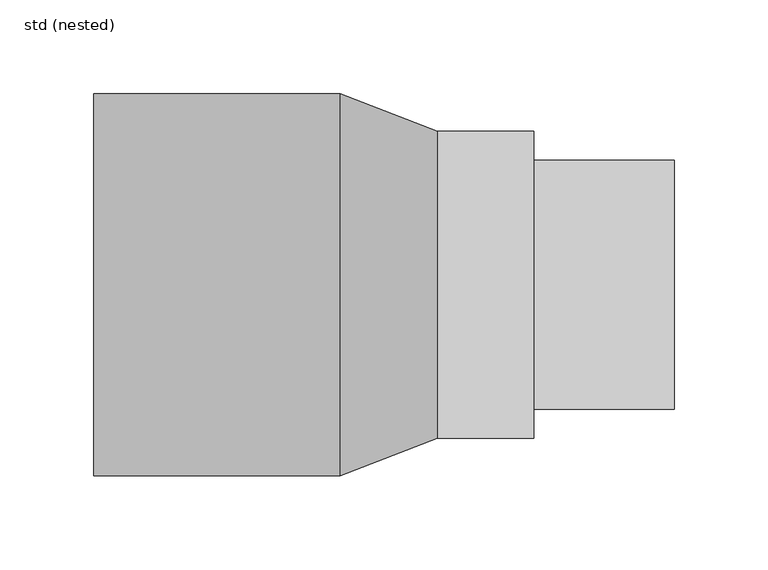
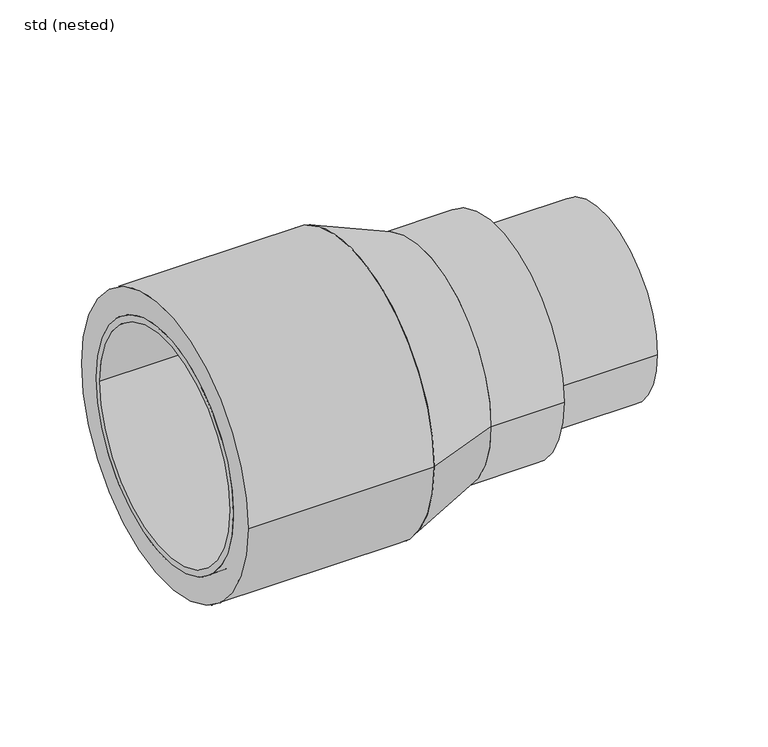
"""IFC4 building model written with IfcOpenShell, lengths in millimetres: pipe fitting geometry, ZZZ_do not use_PIF_ST_WPB_GM-X compound pipe optimiser_ACO : std (nested)."""

from ifc_helpers import new_model, si_unit, point, frame, origin, origin_2d, place, context, project, spatial, polyline, circle_curve, trimmed, segment, composite_curve, outline, extrude, source, transform, mapped, element, save
from ifc_brep_helpers import plane_surface, cylinder_surface, revolved_surface, advanced_brep


def std_nested_5f0271a8(model_context):
    return source(origin(), model_context, "Body", "SolidModel", [
        advanced_brep(
        [(-70.5, -90.5, 0.0), (-70.5, 90.5, 0.0), (-35.0, 90.5, 0.0), (-35.0, -90.5, 0.0), (-80.0, 84.0, 0.0), (-80.0, -84.0, 0.0), (-80.0, -79.5, 0.0), (-80.0, 79.5, 0.0), (0.0, 84.0, 0.0), (0.0, -84.0, 0.0), (0.0, 79.5, 0.0), (0.0, -79.5, 0.0), (-70.5, 84.0, 0.0), (-70.5, -84.0, 0.0), (-35.0, -84.0, 0.0), (-35.0, 84.0, 0.0)],
        [
            (0, 1, circle_curve(frame((-70.5, 0.0, 0.0), z_axis=(1.0, 0.0, 0.0), x_axis=(0.0, -1.0, 0.0)), 90.5)),
            (1, 2),
            (2, 3, circle_curve(frame((-35.0, 0.0, 0.0), z_axis=(-1.0, 0.0, 0.0), x_axis=(0.0, -1.0, 0.0)), 90.5)),
            (3, 0),
            (1, 0, circle_curve(frame((-70.5, 0.0, 0.0), z_axis=(1.0, 0.0, 0.0), x_axis=(0.0, -1.0, 0.0)), 90.5)),
            (3, 2, circle_curve(frame((-35.0, 0.0, 0.0), z_axis=(-1.0, 0.0, 0.0), x_axis=(0.0, -1.0, 0.0)), 90.5)),
            (4, 5, circle_curve(frame((-80.0, 0.0, 0.0), z_axis=(-1.0, 0.0, 0.0), x_axis=(0.0, -1.0, 0.0)), 84.0)),
            (5, 4, circle_curve(frame((-80.0, 0.0, 0.0), z_axis=(-1.0, 0.0, 0.0), x_axis=(0.0, -1.0, 0.0)), 84.0)),
            (6, 7, circle_curve(frame((-80.0, 0.0, 0.0), z_axis=(1.0, 0.0, 0.0), x_axis=(0.0, -1.0, 0.0)), 79.5)),
            (7, 6, circle_curve(frame((-80.0, 0.0, 0.0), z_axis=(1.0, 0.0, 0.0), x_axis=(0.0, -1.0, 0.0)), 79.5)),
            (8, 9, circle_curve(frame((0.0, 0.0, 0.0), z_axis=(1.0, 0.0, 0.0), x_axis=(0.0, -1.0, 0.0)), 84.0)),
            (9, 8, circle_curve(frame((0.0, 0.0, 0.0), z_axis=(1.0, 0.0, 0.0), x_axis=(0.0, -1.0, 0.0)), 84.0)),
            (10, 11, circle_curve(frame((0.0, 0.0, 0.0), z_axis=(-1.0, 0.0, 0.0), x_axis=(0.0, -1.0, 0.0)), 79.5)),
            (11, 10, circle_curve(frame((0.0, 0.0, 0.0), z_axis=(-1.0, 0.0, 0.0), x_axis=(0.0, -1.0, 0.0)), 79.5)),
            (4, 12),
            (12, 13, circle_curve(frame((-70.5, 0.0, 0.0), z_axis=(-1.0, 0.0, 0.0), x_axis=(0.0, -1.0, 0.0)), 84.0)),
            (13, 5),
            (9, 14),
            (14, 15, circle_curve(frame((-35.0, 0.0, 0.0), z_axis=(1.0, 0.0, 0.0), x_axis=(0.0, -1.0, 0.0)), 84.0)),
            (15, 8),
            (13, 12, circle_curve(frame((-70.5, 0.0, 0.0), z_axis=(-1.0, 0.0, 0.0), x_axis=(0.0, -1.0, 0.0)), 84.0)),
            (15, 14, circle_curve(frame((-35.0, 0.0, 0.0), z_axis=(1.0, 0.0, 0.0), x_axis=(0.0, -1.0, 0.0)), 84.0)),
            (6, 11),
            (10, 7),
        ],
        [
            cylinder_surface(frame((-35.0, 0.0, 0.0), z_axis=(-1.0, 0.0, 0.0), x_axis=(0.0, -1.0, 0.0)), 90.5),
            plane_surface(frame((-80.0, -84.0, 0.0), z_axis=(-1.0, 0.0, 0.0), x_axis=(0.0, 0.0, 1.0))),
            plane_surface(frame((0.0, -84.0, 0.0), z_axis=(1.0, 0.0, 0.0), x_axis=(0.0, 0.0, -1.0))),
            cylinder_surface(frame((0.0, 0.0, 0.0), z_axis=(-1.0, 0.0, 0.0), x_axis=(0.0, -1.0, 0.0)), 84.0),
            revolved_surface(polyline([(-80.0, -79.5, 0.0), (0.0, -79.5, 0.0)]), (0.0, 0.0, 0.0), (-1.0, 0.0, 0.0)),
            plane_surface(frame((-70.5, -90.5, 0.0), z_axis=(-1.0, 0.0, 0.0), x_axis=(0.0, 0.0, 1.0))),
            plane_surface(frame((-35.0, -90.5, 0.0), z_axis=(1.0, 0.0, 0.0), x_axis=(0.0, 0.0, -1.0))),
        ],
        [
            (0, [[1, 2, 3, 4]]),
            (0, [[5, -4, 6, -2]]),
            (1, [[7, 8], [9, 10]]),
            (2, [[11, 12], [13, 14]]),
            (3, [[-7, 15, 16, 17]]),
            (3, [[-12, 18, 19, 20]]),
            (3, [[-8, -17, 21, -15]]),
            (3, [[-11, -20, 22, -18]]),
            (4, [[23, -13, 24, -9]]),
            (4, [[-23, -10, -24, -14]]),
            (5, [[-1, -5], [-16, -21]]),
            (6, [[-6, -3], [-19, -22]]),
        ],
    ),
        advanced_brep(
        [(103.3333333, -82.0, 0.0), (103.3333333, 82.0, 0.0), (51.6666667, -102.0, 0.0), (51.6666667, 102.0, 0.0)],
        [
            (0, 1, circle_curve(frame((103.3333333, 0.0, 0.0), z_axis=(1.0, 0.0, 0.0), x_axis=(0.0, -1.0, 0.0)), 82.0)),
            (1, 0, circle_curve(frame((103.3333333, 0.0, 0.0), z_axis=(1.0, 0.0, 0.0), x_axis=(0.0, 1.0, 0.0)), 82.0)),
            (2, 3, circle_curve(frame((51.6666667, 0.0, 0.0), z_axis=(-1.0, 0.0, 0.0), x_axis=(0.0, 1.0, 0.0)), 102.0)),
            (3, 2, circle_curve(frame((51.6666667, 0.0, 0.0), z_axis=(-1.0, 0.0, 0.0), x_axis=(0.0, -1.0, 0.0)), 102.0)),
            (3, 1),
            (0, 2),
        ],
        [
            plane_surface(frame((103.3333333, 0.0, 0.0), z_axis=(1.0, 0.0, 0.0), x_axis=(0.0, 0.0, -1.0))),
            plane_surface(frame((51.6666667, 0.0, 0.0), z_axis=(-1.0, 0.0, 0.0), x_axis=(0.0, 0.0, -1.0))),
            revolved_surface(polyline([(103.33333329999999, -82.00000002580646, 0.0), (51.66666670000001, -102.0, 0.0)]), (315.1666667, 0.0, 0.0), (-1.0, 0.0, 0.0)),
            revolved_surface(polyline([(103.33333329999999, 82.00000002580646, 0.0), (51.66666670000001, 102.0, 0.0)]), (315.1666667, 0.0, 0.0), (-1.0, 0.0, 0.0)),
        ],
        [
            (0, [[1, 2]]),
            (1, [[3, 4]]),
            (2, [[-4, 5, -1, 6]]),
            (3, [[-3, -6, -2, -5]]),
        ],
    ),
        advanced_brep(
        [(-80.0, -102.0, 0.0), (-80.0, 102.0, 0.0), (-80.0, 84.0, 0.0), (-80.0, -84.0, 0.0), (51.6666667, -102.0, 0.0), (51.6666667, 102.0, 0.0), (0.0, -84.0, 0.0), (0.0, 84.0, 0.0)],
        [
            (0, 1, circle_curve(frame((-80.0, 0.0, 0.0), z_axis=(-1.0, 0.0, 0.0), x_axis=(0.0, 1.0, 0.0)), 102.0)),
            (1, 0, circle_curve(frame((-80.0, 0.0, 0.0), z_axis=(-1.0, 0.0, 0.0), x_axis=(0.0, 1.0, 0.0)), 102.0)),
            (2, 3, circle_curve(frame((-80.0, 0.0, 0.0), z_axis=(1.0, 0.0, 0.0), x_axis=(0.0, 1.0, 0.0)), 84.0)),
            (3, 2, circle_curve(frame((-80.0, 0.0, 0.0), z_axis=(1.0, 0.0, 0.0), x_axis=(0.0, 1.0, 0.0)), 84.0)),
            (4, 5, circle_curve(frame((51.6666667, 0.0, 0.0), z_axis=(1.0, 0.0, 0.0), x_axis=(0.0, 1.0, 0.0)), 102.0)),
            (5, 4, circle_curve(frame((51.6666667, 0.0, 0.0), z_axis=(1.0, 0.0, 0.0), x_axis=(0.0, 1.0, 0.0)), 102.0)),
            (0, 4),
            (5, 1),
            (6, 7, circle_curve(frame((0.0, 0.0, 0.0), z_axis=(-1.0, 0.0, 0.0), x_axis=(0.0, 1.0, 0.0)), 84.0)),
            (7, 6, circle_curve(frame((0.0, 0.0, 0.0), z_axis=(-1.0, 0.0, 0.0), x_axis=(0.0, 1.0, 0.0)), 84.0)),
            (6, 3),
            (2, 7),
        ],
        [
            plane_surface(frame((-80.0, 102.0, 0.0), z_axis=(-1.0, 0.0, 0.0), x_axis=(0.0, 0.0, -1.0))),
            plane_surface(frame((51.6666667, 102.0, 0.0), z_axis=(1.0, 0.0, 0.0), x_axis=(0.0, 0.0, 1.0))),
            cylinder_surface(frame((51.6666667, 0.0, 0.0), z_axis=(-1.0, 0.0, 0.0), x_axis=(0.0, 1.0, 0.0)), 102.0),
            plane_surface(frame((0.0, 84.0, 0.0), z_axis=(-1.0, 0.0, 0.0), x_axis=(0.0, 0.0, 1.0))),
            revolved_surface(polyline([(-80.0, 84.0, 0.0), (0.0, 84.0, 0.0)]), (0.0, 0.0, 0.0), (-1.0, 0.0, 0.0)),
        ],
        [
            (0, [[1, 2], [3, 4]]),
            (1, [[5, 6]]),
            (2, [[-1, 7, -6, 8]]),
            (2, [[-2, -8, -5, -7]]),
            (3, [[9, 10]]),
            (4, [[-9, 11, -3, 12]]),
            (4, [[-10, -12, -4, -11]]),
        ],
    ),
        extrude(outline(composite_curve([segment(trimmed(circle_curve(origin_2d(), 82.0), [point((82.0, 0.0))], [point((-82.0, 0.0))], False, "CARTESIAN"), True, "CONTINUOUS"), segment(trimmed(circle_curve(origin_2d(), 82.0), [point((-82.0, 0.0))], [point((82.0, 0.0))], False, "CARTESIAN"), True, "CONTINUOUS")], self_intersect=False)), frame((103.3333333, 0.0, 0.0), z_axis=(1.0, 0.0, 0.0), x_axis=(0.0, 1.0, 0.0)), (0.0, 0.0, 1.0), 51.6666667),
        extrude(outline(composite_curve([segment(trimmed(circle_curve(origin_2d(), 66.5), [point((66.5, 0.0))], [point((-66.5, 0.0))], False, "CARTESIAN"), True, "CONTINUOUS"), segment(trimmed(circle_curve(origin_2d(), 66.5), [point((-66.5, 0.0))], [point((66.5, 0.0))], False, "CARTESIAN"), True, "CONTINUOUS")], self_intersect=False)), frame((155.0, 0.0, 0.0), z_axis=(1.0, 0.0, 0.0), x_axis=(0.0, 1.0, 0.0)), (0.0, 0.0, 1.0), 75.0),
    ])


if __name__ == "__main__":
    model = new_model("IFC4")
    model_context = context("Model", 3, world=origin())
    ifc_project = project(units=[si_unit("LENGTHUNIT", "METRE", prefix="MILLI")], contexts=[model_context])
    site = spatial("IfcSite", under=ifc_project)
    building = spatial("IfcBuilding", under=site)
    placement = place(None, origin())
    std_nested_shape = std_nested_5f0271a8(model_context)
    element("IfcPipeFitting", 1, ObjectType="ZZZ_do not use_PIF_ST_WPB_GM-X compound pipe optimiser_ACO : std (nested)", at=placement, inside=building, context=model_context, shape_type="MappedRepresentation", body=[
        mapped(std_nested_shape, transform((0.0, 0.0, 0.0), x_axis=(1.0, 0.0, 0.0), y_axis=(0.0, 1.0, 0.0), z_axis=(0.0, 0.0, 1.0))),
    ])
    save(model, "model.ifc")
